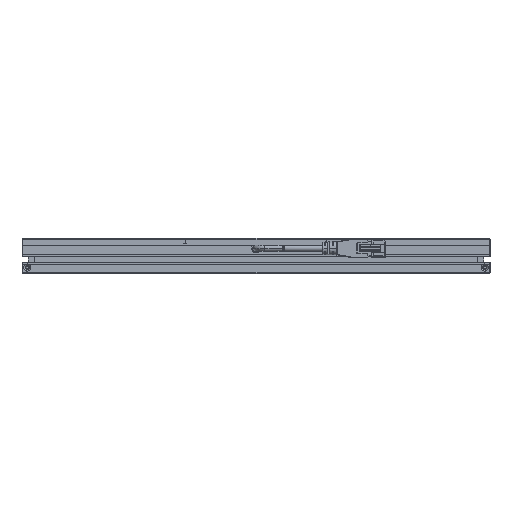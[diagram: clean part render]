
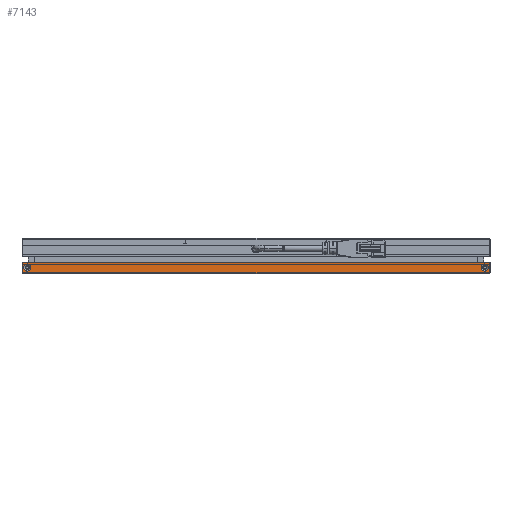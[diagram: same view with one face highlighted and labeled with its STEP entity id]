
A CAD part, left-side view. The second image highlights one B-rep face of the part: STEP entity #7143.
In plain terms, the highlighted planar face has unit normal (-1, 0, 0).
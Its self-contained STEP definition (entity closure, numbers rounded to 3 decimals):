
#20 = DIRECTION ( 'NONE',  ( 1., 0., 0. ) ) ;
#237 = CIRCLE ( 'NONE', #9591, 2. ) ;
#332 = VERTEX_POINT ( 'NONE', #11471 ) ;
#366 = DIRECTION ( 'NONE',  ( 0., -1., 0. ) ) ;
#480 = EDGE_CURVE ( 'NONE', #4567, #3035, #1617, .T. ) ;
#841 = CARTESIAN_POINT ( 'NONE',  ( -132., 129., -14.5 ) ) ;
#959 = CARTESIAN_POINT ( 'NONE',  ( -132., 132., -15.5 ) ) ;
#1094 = CARTESIAN_POINT ( 'NONE',  ( -132., -129., -14.5 ) ) ;
#1151 = VERTEX_POINT ( 'NONE', #10469 ) ;
#1350 = ORIENTED_EDGE ( 'NONE', *, *, #10011, .T. ) ;
#1450 = DIRECTION ( 'NONE',  ( 1., 0., 0. ) ) ;
#1617 = CIRCLE ( 'NONE', #8737, 2. ) ;
#1725 = DIRECTION ( 'NONE',  ( 1., 0., 0. ) ) ;
#1865 = EDGE_LOOP ( 'NONE', ( #2761, #10921, #1350, #5072 ) ) ;
#1941 = CARTESIAN_POINT ( 'NONE',  ( -132., -129., -12.5 ) ) ;
#2223 = LINE ( 'NONE', #5961, #6223 ) ;
#2550 = VERTEX_POINT ( 'NONE', #11602 ) ;
#2761 = ORIENTED_EDGE ( 'NONE', *, *, #3632, .F. ) ;
#2783 = EDGE_LOOP ( 'NONE', ( #10165, #4598 ) ) ;
#3035 = VERTEX_POINT ( 'NONE', #7986 ) ;
#3123 = CARTESIAN_POINT ( 'NONE',  ( -132., 132., -15.5 ) ) ;
#3541 = VECTOR ( 'NONE', #366, 1000. ) ;
#3632 = EDGE_CURVE ( 'NONE', #11326, #2550, #5987, .T. ) ;
#3992 = EDGE_CURVE ( 'NONE', #3035, #4567, #8151, .T. ) ;
#4200 = FACE_BOUND ( 'NONE', #2783, .T. ) ;
#4387 = DIRECTION ( 'NONE',  ( 0., 0., -1. ) ) ;
#4520 = DIRECTION ( 'NONE',  ( 0., 0., -1. ) ) ;
#4567 = VERTEX_POINT ( 'NONE', #841 ) ;
#4598 = ORIENTED_EDGE ( 'NONE', *, *, #3992, .T. ) ;
#4930 = FACE_BOUND ( 'NONE', #5472, .T. ) ;
#5072 = ORIENTED_EDGE ( 'NONE', *, *, #5496, .F. ) ;
#5381 = CARTESIAN_POINT ( 'NONE',  ( -132., 131.5, -9.85 ) ) ;
#5472 = EDGE_LOOP ( 'NONE', ( #9036, #11276 ) ) ;
#5496 = EDGE_CURVE ( 'NONE', #2550, #332, #9847, .T. ) ;
#5634 = CIRCLE ( 'NONE', #7487, 2. ) ;
#5776 = AXIS2_PLACEMENT_3D ( 'NONE', #959, #7434, #6532 ) ;
#5961 = CARTESIAN_POINT ( 'NONE',  ( -132., 131.5, 0. ) ) ;
#5987 = LINE ( 'NONE', #9570, #3541 ) ;
#6223 = VECTOR ( 'NONE', #4387, 1000. ) ;
#6493 = PLANE ( 'NONE',  #5776 ) ;
#6532 = DIRECTION ( 'NONE',  ( 0., 0., 1. ) ) ;
#6573 = DIRECTION ( 'NONE',  ( 1., 0., 0. ) ) ;
#6595 = DIRECTION ( 'NONE',  ( 0., 0., -1. ) ) ;
#6706 = VERTEX_POINT ( 'NONE', #1094 ) ;
#6756 = AXIS2_PLACEMENT_3D ( 'NONE', #6992, #1450, #7913 ) ;
#6836 = DIRECTION ( 'NONE',  ( 0., -1., 0. ) ) ;
#6992 = CARTESIAN_POINT ( 'NONE',  ( -132., 129., -12.5 ) ) ;
#7115 = EDGE_CURVE ( 'NONE', #6706, #9894, #5634, .T. ) ;
#7143 = ADVANCED_FACE ( 'NONE', ( #4200, #4930, #7953 ), #6493, .F. ) ;
#7179 = DIRECTION ( 'NONE',  ( 0., 0., -1. ) ) ;
#7386 = EDGE_CURVE ( 'NONE', #11326, #1151, #2223, .T. ) ;
#7434 = DIRECTION ( 'NONE',  ( 1., 0., 0. ) ) ;
#7487 = AXIS2_PLACEMENT_3D ( 'NONE', #1941, #6573, #11902 ) ;
#7913 = DIRECTION ( 'NONE',  ( 0., 0., -1. ) ) ;
#7953 = FACE_OUTER_BOUND ( 'NONE', #1865, .T. ) ;
#7986 = CARTESIAN_POINT ( 'NONE',  ( -132., 129., -10.5 ) ) ;
#8119 = VECTOR ( 'NONE', #6595, 1000. ) ;
#8151 = CIRCLE ( 'NONE', #6756, 2. ) ;
#8737 = AXIS2_PLACEMENT_3D ( 'NONE', #9197, #20, #4520 ) ;
#9036 = ORIENTED_EDGE ( 'NONE', *, *, #7115, .T. ) ;
#9197 = CARTESIAN_POINT ( 'NONE',  ( -132., 129., -12.5 ) ) ;
#9488 = VECTOR ( 'NONE', #6836, 1000. ) ;
#9570 = CARTESIAN_POINT ( 'NONE',  ( -132., 132., -9.85 ) ) ;
#9591 = AXIS2_PLACEMENT_3D ( 'NONE', #11847, #1725, #7179 ) ;
#9847 = LINE ( 'NONE', #10205, #8119 ) ;
#9894 = VERTEX_POINT ( 'NONE', #10396 ) ;
#10011 = EDGE_CURVE ( 'NONE', #1151, #332, #10480, .T. ) ;
#10165 = ORIENTED_EDGE ( 'NONE', *, *, #480, .T. ) ;
#10205 = CARTESIAN_POINT ( 'NONE',  ( -132., -131.5, 0. ) ) ;
#10396 = CARTESIAN_POINT ( 'NONE',  ( -132., -129., -10.5 ) ) ;
#10469 = CARTESIAN_POINT ( 'NONE',  ( -132., 131.5, -15.5 ) ) ;
#10480 = LINE ( 'NONE', #3123, #9488 ) ;
#10742 = EDGE_CURVE ( 'NONE', #9894, #6706, #237, .T. ) ;
#10921 = ORIENTED_EDGE ( 'NONE', *, *, #7386, .T. ) ;
#11276 = ORIENTED_EDGE ( 'NONE', *, *, #10742, .T. ) ;
#11326 = VERTEX_POINT ( 'NONE', #5381 ) ;
#11471 = CARTESIAN_POINT ( 'NONE',  ( -132., -131.5, -15.5 ) ) ;
#11602 = CARTESIAN_POINT ( 'NONE',  ( -132., -131.5, -9.85 ) ) ;
#11847 = CARTESIAN_POINT ( 'NONE',  ( -132., -129., -12.5 ) ) ;
#11902 = DIRECTION ( 'NONE',  ( 0., 0., -1. ) ) ;
